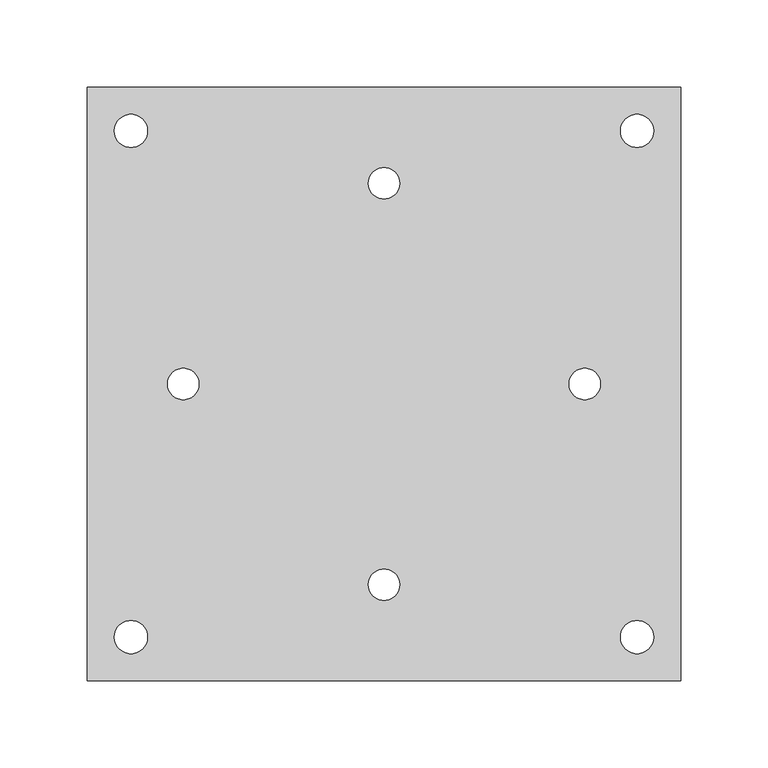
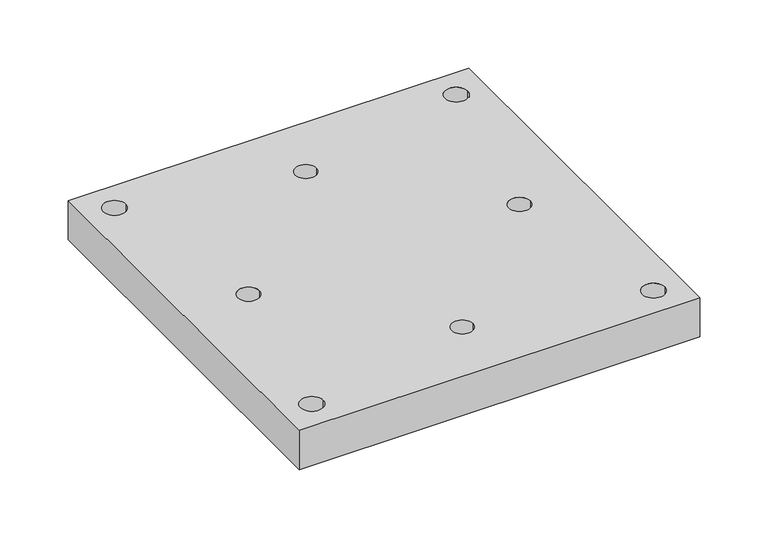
"""IFC4 building model written with IfcOpenShell, lengths in millimetres: proxy geometry, Wellmix_Присоединительная база : База Б."""

from ifc_helpers import new_model, si_unit, point, frame, frame_2d, origin, place, context, project, spatial, polyline, circle_curve, trimmed, segment, composite_curve, outline, extrude, source, transform, mapped, element, save


def mechanical_equipment_df366a0f(model_context):
    return source(origin(), model_context, "Body", "SweptSolid", [
        extrude(outline(polyline([(170.0, 170.0), (170.0, -170.0), (-170.0, -170.0), (-170.0, 170.0), (170.0, 170.0)]), holes=[composite_curve([segment(trimmed(circle_curve(frame_2d((-145.0, 145.0)), 9.5), [point((-154.5, 145.0))], [point((-135.5, 145.0))], True, "CARTESIAN"), True, "CONTINUOUS"), segment(trimmed(circle_curve(frame_2d((-145.0, 145.0)), 9.5), [point((-135.5, 145.0))], [point((-154.5, 145.0))], True, "CARTESIAN"), True, "CONTINUOUS")], self_intersect=False), composite_curve([segment(trimmed(circle_curve(frame_2d((145.0, 145.0)), 9.5), [point((135.5, 145.0))], [point((154.5, 145.0))], True, "CARTESIAN"), True, "CONTINUOUS"), segment(trimmed(circle_curve(frame_2d((145.0, 145.0)), 9.5), [point((154.5, 145.0))], [point((135.5, 145.0))], True, "CARTESIAN"), True, "CONTINUOUS")], self_intersect=False), composite_curve([segment(trimmed(circle_curve(frame_2d((-145.0, -145.0)), 9.5), [point((-154.5, -145.0))], [point((-135.5, -145.0))], True, "CARTESIAN"), True, "CONTINUOUS"), segment(trimmed(circle_curve(frame_2d((-145.0, -145.0)), 9.5), [point((-135.5, -145.0))], [point((-154.5, -145.0))], True, "CARTESIAN"), True, "CONTINUOUS")], self_intersect=False), composite_curve([segment(trimmed(circle_curve(frame_2d((145.0, -145.0)), 9.5), [point((135.5, -145.0))], [point((154.5, -145.0))], True, "CARTESIAN"), True, "CONTINUOUS"), segment(trimmed(circle_curve(frame_2d((145.0, -145.0)), 9.5), [point((154.5, -145.0))], [point((135.5, -145.0))], True, "CARTESIAN"), True, "CONTINUOUS")], self_intersect=False), composite_curve([segment(trimmed(circle_curve(frame_2d((-115.0, 0.0)), 9.0), [point((-124.0, 0.0))], [point((-106.0, 0.0))], True, "CARTESIAN"), True, "CONTINUOUS"), segment(trimmed(circle_curve(frame_2d((-115.0, 0.0)), 9.0), [point((-106.0, 0.0))], [point((-124.0, 0.0))], True, "CARTESIAN"), True, "CONTINUOUS")], self_intersect=False), composite_curve([segment(trimmed(circle_curve(frame_2d((115.0, 0.0)), 9.0), [point((106.0, 0.0))], [point((124.0, 0.0))], True, "CARTESIAN"), True, "CONTINUOUS"), segment(trimmed(circle_curve(frame_2d((115.0, 0.0)), 9.0), [point((124.0, 0.0))], [point((106.0, 0.0))], True, "CARTESIAN"), True, "CONTINUOUS")], self_intersect=False), composite_curve([segment(trimmed(circle_curve(frame_2d((0.0, 115.0)), 9.0), [point((-9.0, 115.0))], [point((9.0, 115.0))], True, "CARTESIAN"), True, "CONTINUOUS"), segment(trimmed(circle_curve(frame_2d((0.0, 115.0)), 9.0), [point((9.0, 115.0))], [point((-9.0, 115.0))], True, "CARTESIAN"), True, "CONTINUOUS")], self_intersect=False), composite_curve([segment(trimmed(circle_curve(frame_2d((0.0, -115.0)), 9.0), [point((-9.0, -115.0))], [point((9.0, -115.0))], True, "CARTESIAN"), True, "CONTINUOUS"), segment(trimmed(circle_curve(frame_2d((0.0, -115.0)), 9.0), [point((9.0, -115.0))], [point((-9.0, -115.0))], True, "CARTESIAN"), True, "CONTINUOUS")], self_intersect=False)]), frame((0.0, 0.0, -35.0), z_axis=(0.0, 0.0, 1.0), x_axis=(1.0, 0.0, 0.0)), (0.0, 0.0, 1.0), 35.0),
    ])


if __name__ == "__main__":
    model = new_model("IFC4")
    model_context = context("Model", 3, world=origin())
    ifc_project = project(units=[si_unit("LENGTHUNIT", "METRE", prefix="MILLI")], contexts=[model_context])
    site = spatial("IfcSite", under=ifc_project)
    building = spatial("IfcBuilding", under=site)
    placement = place(None, origin())
    mechanical_equipment_shape = mechanical_equipment_df366a0f(model_context)
    element("IfcBuildingElementProxy", 1, Name="Wellmix_Присоединительная база : База Б", ObjectType="Wellmix_Присоединительная база : База Б", at=placement, inside=building, context=model_context, shape_type="MappedRepresentation", body=[
        mapped(mechanical_equipment_shape, transform((0.0, 0.0, 0.0), x_axis=(1.0, 0.0, 0.0), y_axis=(0.0, 1.0, 0.0), z_axis=(0.0, 0.0, 1.0))),
    ])
    save(model, "model.ifc")
